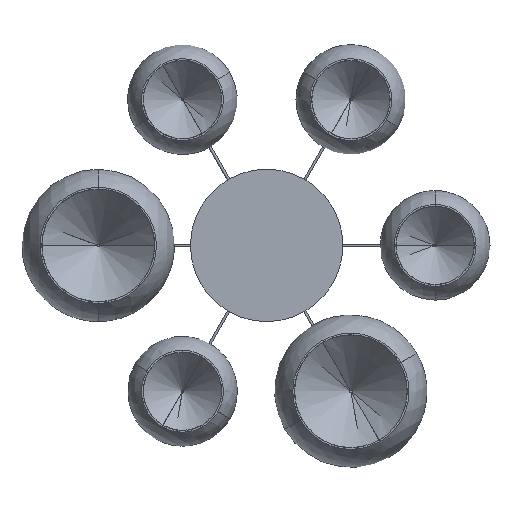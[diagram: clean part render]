
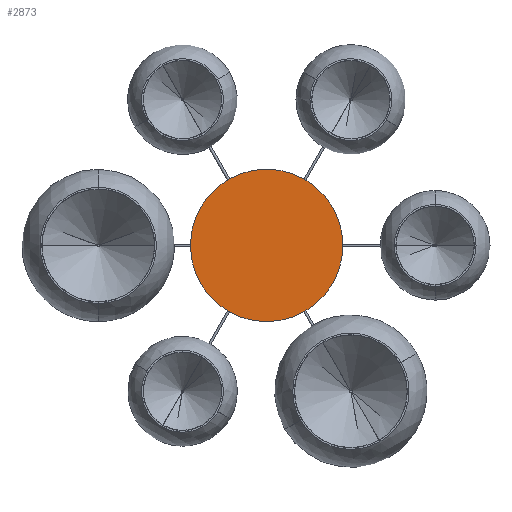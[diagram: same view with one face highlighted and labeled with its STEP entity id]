
A CAD part, front view. The second image highlights one B-rep face of the part: STEP entity #2873.
In plain terms, the highlighted planar face has unit normal (0, -1, 0).
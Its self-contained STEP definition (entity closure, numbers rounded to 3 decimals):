
#105 = EDGE_CURVE ( 'NONE', #7154, #5447, #2103, .T. ) ;
#246 = DIRECTION ( 'NONE',  ( 0., 0., 1. ) ) ;
#366 = PLANE ( 'NONE',  #6589 ) ;
#470 = EDGE_LOOP ( 'NONE', ( #2149, #6997 ) ) ;
#1301 = DIRECTION ( 'NONE',  ( 0., 1., 0. ) ) ;
#1354 = FACE_OUTER_BOUND ( 'NONE', #470, .T. ) ;
#1584 = AXIS2_PLACEMENT_3D ( 'NONE', #3549, #1301, #246 ) ;
#2103 = CIRCLE ( 'NONE', #7244, 125. ) ;
#2149 = ORIENTED_EDGE ( 'NONE', *, *, #5483, .F. ) ;
#2623 = DIRECTION ( 'NONE',  ( 0., 1., 0. ) ) ;
#2873 = ADVANCED_FACE ( 'NONE', ( #1354 ), #366, .F. ) ;
#3003 = CIRCLE ( 'NONE', #1584, 125. ) ;
#3549 = CARTESIAN_POINT ( 'NONE',  ( 0., 0., 0. ) ) ;
#3906 = CARTESIAN_POINT ( 'NONE',  ( 0., 0., -125. ) ) ;
#4875 = DIRECTION ( 'NONE',  ( 0., 0., 1. ) ) ;
#5034 = CARTESIAN_POINT ( 'NONE',  ( 0., 0., 0. ) ) ;
#5447 = VERTEX_POINT ( 'NONE', #3906 ) ;
#5483 = EDGE_CURVE ( 'NONE', #5447, #7154, #3003, .T. ) ;
#5977 = CARTESIAN_POINT ( 'NONE',  ( 0., 0., 0. ) ) ;
#6589 = AXIS2_PLACEMENT_3D ( 'NONE', #5977, #2623, #4875 ) ;
#6784 = CARTESIAN_POINT ( 'NONE',  ( 0., 0., 125. ) ) ;
#6997 = ORIENTED_EDGE ( 'NONE', *, *, #105, .F. ) ;
#7132 = DIRECTION ( 'NONE',  ( 0., 0., 1. ) ) ;
#7154 = VERTEX_POINT ( 'NONE', #6784 ) ;
#7243 = DIRECTION ( 'NONE',  ( 0., 1., 0. ) ) ;
#7244 = AXIS2_PLACEMENT_3D ( 'NONE', #5034, #7243, #7132 ) ;
